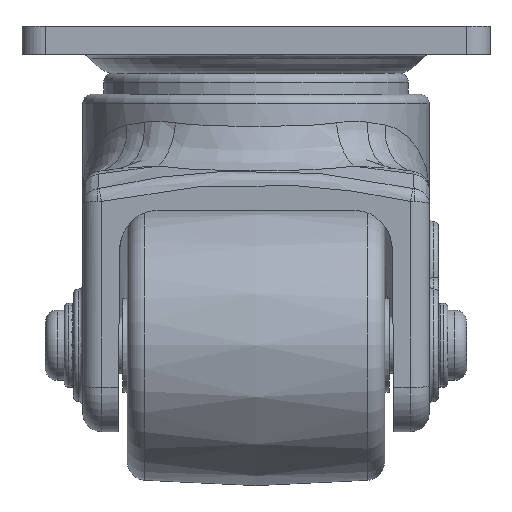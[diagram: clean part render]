
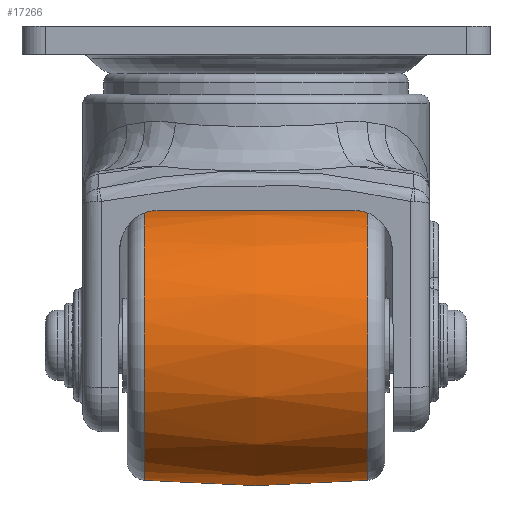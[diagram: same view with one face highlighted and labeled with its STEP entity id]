
A CAD part, left-side view. The second image highlights one B-rep face of the part: STEP entity #17266.
In plain terms, the highlighted free-form (B-spline) face has degree [2, 2] with [3, 9] control points.
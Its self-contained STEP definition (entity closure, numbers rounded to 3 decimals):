
#17202=CARTESIAN_POINT('',(100.326,143.221,-17.05));
#17203=VERTEX_POINT('',#17202);
#17204=CARTESIAN_POINT('',(71.47,143.221,-17.05));
#17205=DIRECTION('',(0.0,-1.0,0.0));
#17206=DIRECTION('',(1.0,0.0,0.0));
#17207=AXIS2_PLACEMENT_3D('',#17204,#17205,#17206);
#17208=CIRCLE('',#17207,28.857);
#17209=EDGE_CURVE('',#17203,#17203,#17208,.T.);
#17217=CARTESIAN_POINT('',(71.47,143.221,11.807));
#17218=CARTESIAN_POINT('',(71.47,119.339,14.099));
#17219=CARTESIAN_POINT('',(71.47,95.456,11.807));
#17220=CARTESIAN_POINT('',(100.326,143.221,11.807));
#17221=CARTESIAN_POINT('',(102.618,119.339,14.099));
#17222=CARTESIAN_POINT('',(100.326,95.456,11.807));
#17223=CARTESIAN_POINT('',(100.326,143.221,-17.05));
#17224=CARTESIAN_POINT('',(102.618,119.339,-17.05));
#17225=CARTESIAN_POINT('',(100.326,95.456,-17.05));
#17226=CARTESIAN_POINT('',(100.326,143.221,-45.907));
#17227=CARTESIAN_POINT('',(102.618,119.339,-48.199));
#17228=CARTESIAN_POINT('',(100.326,95.456,-45.907));
#17229=CARTESIAN_POINT('',(71.47,143.221,-45.907));
#17230=CARTESIAN_POINT('',(71.47,119.339,-48.199));
#17231=CARTESIAN_POINT('',(71.47,95.456,-45.907));
#17232=CARTESIAN_POINT('',(42.613,143.221,-45.907));
#17233=CARTESIAN_POINT('',(40.321,119.339,-48.199));
#17234=CARTESIAN_POINT('',(42.613,95.456,-45.907));
#17235=CARTESIAN_POINT('',(42.613,143.221,-17.05));
#17236=CARTESIAN_POINT('',(40.321,119.339,-17.05));
#17237=CARTESIAN_POINT('',(42.613,95.456,-17.05));
#17238=CARTESIAN_POINT('',(42.613,143.221,11.807));
#17239=CARTESIAN_POINT('',(40.321,119.339,14.099));
#17240=CARTESIAN_POINT('',(42.613,95.456,11.807));
#17241=CARTESIAN_POINT('',(71.47,143.221,11.807));
#17242=CARTESIAN_POINT('',(71.47,119.339,14.099));
#17243=CARTESIAN_POINT('',(71.47,95.456,11.807));
#17251=(BOUNDED_SURFACE()B_SPLINE_SURFACE(2,2,((#17217,#17220,#17223,#17226,#17229,#17232,#17235,#17238,#17241),(#17218,#17221,#17224,#17227,#17230,#17233,#17236,#17239,#17242),(#17219,#17222,#17225,#17228,#17231,#17234,#17237,#17240,#17243)),.UNSPECIFIED.,.F.,.T.,.U.)B_SPLINE_SURFACE_WITH_KNOTS((3,3),(3,2,2,2,3),(-0.096,0.096),(0.0,1.571,3.142,4.712,6.283),.UNSPECIFIED.)GEOMETRIC_REPRESENTATION_ITEM()RATIONAL_B_SPLINE_SURFACE(((1.0,0.707,1.0,0.707,1.0,0.707,1.0,0.707,1.0),(0.995,0.704,0.995,0.704,0.995,0.704,0.995,0.704,0.995),(1.0,0.707,1.0,0.707,1.0,0.707,1.0,0.707,1.0)))REPRESENTATION_ITEM('')SURFACE());
#17252=CARTESIAN_POINT('',(100.326,95.456,-17.05));
#17253=VERTEX_POINT('',#17252);
#17254=CARTESIAN_POINT('',(71.47,95.456,-17.05));
#17255=DIRECTION('',(0.0,-1.0,0.0));
#17256=DIRECTION('',(1.0,0.0,0.0));
#17257=AXIS2_PLACEMENT_3D('',#17254,#17255,#17256);
#17258=CIRCLE('',#17257,28.857);
#17259=EDGE_CURVE('',#17253,#17253,#17258,.T.);
#17260=ORIENTED_EDGE('',*,*,#17259,.F.);
#17261=EDGE_LOOP('',(#17260));
#17262=FACE_OUTER_BOUND('',#17261,.T.);
#17263=ORIENTED_EDGE('',*,*,#17209,.T.);
#17264=EDGE_LOOP('',(#17263));
#17265=FACE_BOUND('',#17264,.T.);
#17266=ADVANCED_FACE('',(#17262,#17265),#17251,.T.);
